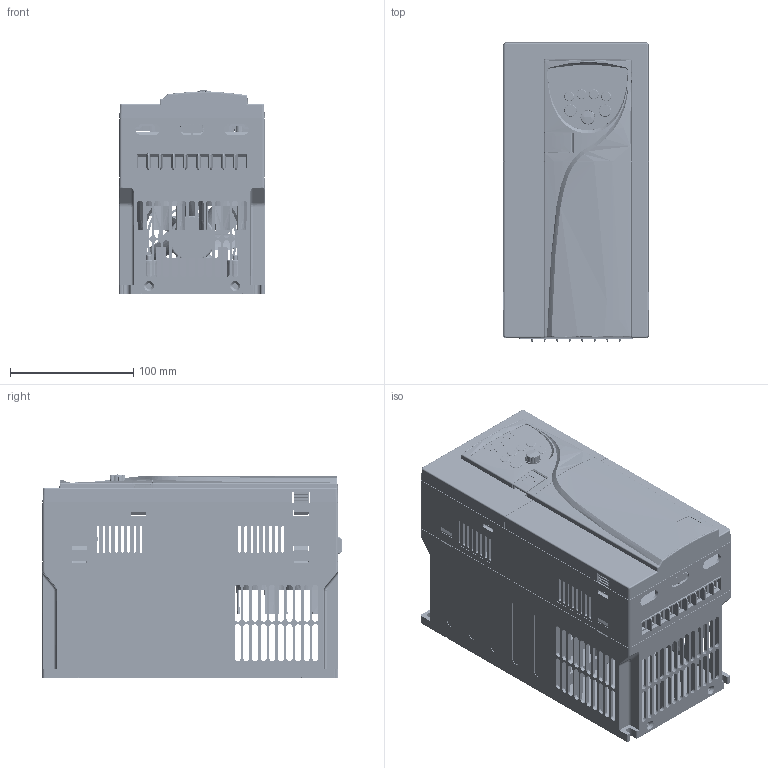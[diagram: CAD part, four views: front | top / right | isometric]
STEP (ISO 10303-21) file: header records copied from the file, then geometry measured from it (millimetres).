
FILE_DESCRIPTION (( 'STEP AP203' ), '1' );
FILE_NAME ('Ïðåîáðàçîâàòåëü ÷àñòîòû _ INVENT-G7.5-4B.STEP', '2025-07-22T11:43:39', ( '' ), ( '' ), 'SwSTEP 2.0', 'SolidWorks 2021', '' );
FILE_SCHEMA (( 'CONFIG_CONTROL_DESIGN' ));
Length unit declared in the file: millimetre
Products named in the file (47): 26PL; Îñíîâà ïëàòû óïðàâëåíèÿ; EU10-09-10.16-01; RL508-15A-8P; Jumper; EU10-09-10.16-01_3; Êîíòàêò 4x4.8x10; HF46F; RL508-15A-2P; Îñíîâà ïëàòû ñèëîâîé B1; ﾇ琥韲 4x4.8x10_1; RL508-15A-3P; EU10-09-10.16-01_8; WH09-103-15; Ïðåîáðàçîâàòåëü ÷àñòîòû _ INVENT-G7.5-4B; 扻豵鵨 B1; Ñòîéêà M3õ41+6; Êðûøêà êîðïóñà B1; 扻豵鵨 蚝 B1; EU10-09-10.16-01_5; Äíèùå; Ïëàòà ñèëîâàÿ B1; Êðûøêà âåíòèÿëòîðà B1; ч蜱齁罻 RJ45; Âåíòèëÿòîð 80õ80õ25; EU10-09-10.16-01_4; EU10-09-10.16-01_6; Ïàíåëü ñ êíîïêàìè; RJ45-8; EU10-09-10.16-01_2; 6x6x83; Ïëàòà óïðàâëåíèÿ; Äèñïëåé; Êîííåêòîð 22PL EEX 2x11x2.54x41; 抔樦憵 4x4.8x10; Ðåãóëÿòîð; Êðûøêà B1; 羊铋赅 󊅚2+6; Êîíòàêò 4x4.8x19_1; ﾇ琥韲 4x4.8x19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
Assembly tree (64 placements, depth 6):
  Ïðåîáðàçîâàòåëü ÷àñòîòû _ INVENT-G7.5-4B
    扻豵鵨 B1
    Âåíòèëÿòîð 80õ80õ25
    Êðûøêà âåíòèÿëòîðà B1
    Ïëàòà ñèëîâàÿ B1
      Îñíîâà ïëàòû ñèëîâîé B1
      Êîííåêòîð 22PL EEX 2x11x2.54x41
      EU10-09-10.16-01
        EU10-09-10.16-01
        EU10-09-10.16-01_5
        EU10-09-10.16-01_2
        EU10-09-10.16-01_8
        EU10-09-10.16-01_6
        EU10-09-10.16-01_4
        EU10-09-10.16-01_1
        EU10-09-10.16-01_7
        EU10-09-10.16-01_3
    Ñòîéêà M3õ41+6
    羊铋赅 󊅚2+6  x2
    扻豵鵨 蚝 B1
    Äíèùå
    Ïëàòà óïðàâëåíèÿ
      Îñíîâà ïëàòû óïðàâëåíèÿ
      RL508-15A-8P
        RL508-15A-3P  x2
          RL508-15A-3P
          抔樦憵 4x4.8x10
            ﾇ琥韲 4x4.8x10_1
            Êîíòàêò 4x4.8x10
          抔樦憵 4x4.8x19
            ﾇ琥韲 4x4.8x19
            Êîíòàêò 4x4.8x19_1
        RL508-15A-2P
          RL508-15A-2P
          抔樦憵 4x4.8x10  x2
            ﾇ琥韲 4x4.8x10_1
            Êîíòàêò 4x4.8x10
          抔樦憵 4x4.8x19  x2
            ﾇ琥韲 4x4.8x19
            Êîíòàêò 4x4.8x19_1
      WH09-103-15
      RJ45-8
      26PL
      Äèñïëåé
      Jumper  x4
      HF46F
      6x6x83  x6
    Êðûøêà B1
      Êðûøêà êîðïóñà B1
      Êðûøêà êëåìì B1
      ч蜱齁罻 RJ45
      Ïàíåëü ñ êíîïêàìè
      Ðåãóëÿòîð
Bounding box: 118.01 x 243.2 x 164.78 mm (x, y, z)
Volume: 619794.4 mm3; surface area: 733727.3 mm2
Topology: 74 solids, 84 shells, 12296 faces, 33484 edges, 21877 vertices
Faces by surface type: plane 8555, cylinder 2365, bspline 844, cone 337, torus 176, sphere 19
Entity records: 345180 total; most frequent: CARTESIAN_POINT 96096, ORIENTED_EDGE 53852, DIRECTION 44920, EDGE_CURVE 26928, VECTOR 19830, LINE 19830, VERTEX_POINT 17598, AXIS2_PLACEMENT_3D 12545
